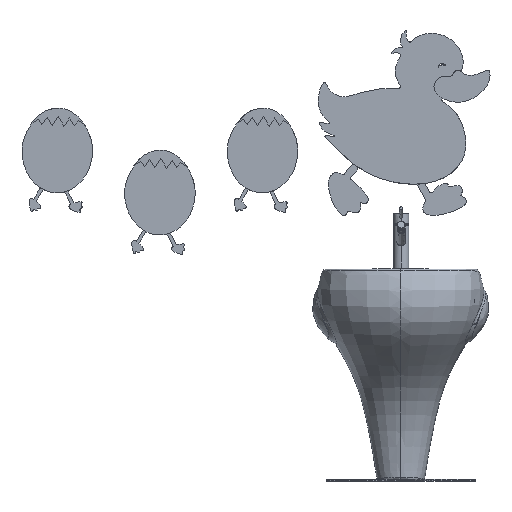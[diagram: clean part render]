
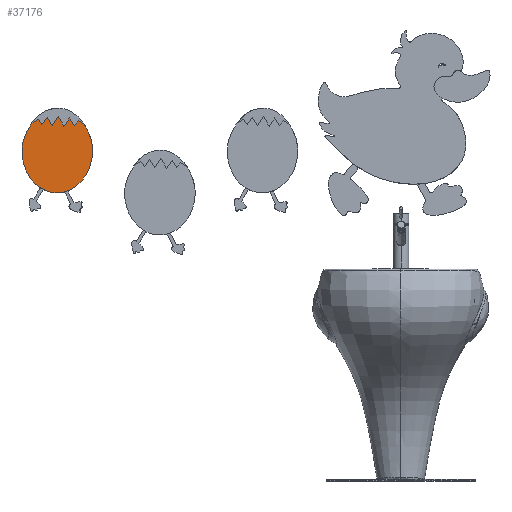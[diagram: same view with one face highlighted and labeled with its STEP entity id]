
A CAD part, top view. The second image highlights one B-rep face of the part: STEP entity #37176.
In plain terms, the highlighted planar face has unit normal (0, 0, 1).
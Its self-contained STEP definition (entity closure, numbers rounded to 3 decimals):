
#1823 = ORIENTED_EDGE ( 'NONE', *, *, #75534, .T. ) ;
#3235 = CARTESIAN_POINT ( 'NONE',  ( -1010.565, 530.499, -519.464 ) ) ;
#4494 = LINE ( 'NONE', #50676, #267280 ) ;
#4965 = EDGE_CURVE ( 'NONE', #191285, #153739, #47562, .T. ) ;
#6187 = CARTESIAN_POINT ( 'NONE',  ( -1117.728, 433.204, -519.464 ) ) ;
#8306 = ORIENTED_EDGE ( 'NONE', *, *, #203443, .T. ) ;
#17047 = B_SPLINE_CURVE_WITH_KNOTS ( 'NONE', 3,
 ( #181402, #283154, #111337, #38159 ),
 .UNSPECIFIED., .F., .F.,
 ( 4, 4 ),
 ( 0.501, 0.518 ),
 .UNSPECIFIED. ) ;
#18813 = VECTOR ( 'NONE', #23389, 1000. ) ;
#20157 = AXIS2_PLACEMENT_3D ( 'NONE', #103446, #81152, #275277 ) ;
#20283 =( BOUNDED_CURVE ( )  B_SPLINE_CURVE ( 3, ( #70950, #193464, #94819, #218894 ),
 .UNSPECIFIED., .F., .T. ) 
 B_SPLINE_CURVE_WITH_KNOTS ( ( 4, 4 ),
 ( 4.712, 6.283 ),
 .UNSPECIFIED. ) 
 CURVE ( )  GEOMETRIC_REPRESENTATION_ITEM ( )  RATIONAL_B_SPLINE_CURVE ( ( 1., 0.805, 0.805, 1. ) ) 
 REPRESENTATION_ITEM ( '' )  );
#21710 = B_SPLINE_CURVE_WITH_KNOTS ( 'NONE', 3,
 ( #293208, #286957, #194592, #267758 ),
 .UNSPECIFIED., .F., .F.,
 ( 4, 4 ),
 ( 0.518, 1. ),
 .UNSPECIFIED. ) ;
#23389 = DIRECTION ( 'NONE',  ( -0.841, 0.542, 0. ) ) ;
#23493 = CARTESIAN_POINT ( 'NONE',  ( -963.814, 503.752, -519.464 ) ) ;
#24164 = CARTESIAN_POINT ( 'NONE',  ( -1017.395, 305.107, -519.464 ) ) ;
#24494 = LINE ( 'NONE', #75353, #188512 ) ;
#25048 = LINE ( 'NONE', #101324, #233232 ) ;
#26599 = ORIENTED_EDGE ( 'NONE', *, *, #140257, .T. ) ;
#26814 = DIRECTION ( 'NONE',  ( -0.56, -0.828, 0. ) ) ;
#27660 = ORIENTED_EDGE ( 'NONE', *, *, #125653, .T. ) ;
#28405 = VERTEX_POINT ( 'NONE', #23493 ) ;
#28847 = ORIENTED_EDGE ( 'NONE', *, *, #163218, .T. ) ;
#31568 = DIRECTION ( 'NONE',  ( -0.509, 0.861, 0. ) ) ;
#36030 = CARTESIAN_POINT ( 'NONE',  ( -909.49, 426.894, -519.464 ) ) ;
#36560 = CARTESIAN_POINT ( 'NONE',  ( -1066.226, 523.698, -519.464 ) ) ;
#37176 = ADVANCED_FACE ( 'NONE', ( #128898 ), #130470, .T. ) ;
#38159 = CARTESIAN_POINT ( 'NONE',  ( -1090.14, 508.72, -519.464 ) ) ;
#39592 = CARTESIAN_POINT ( 'NONE',  ( -909.49, 426.894, -519.464 ) ) ;
#45271 = VERTEX_POINT ( 'NONE', #148202 ) ;
#47562 = B_SPLINE_CURVE_WITH_KNOTS ( 'NONE', 3,
 ( #39592, #283025, #138231, #256002 ),
 .UNSPECIFIED., .F., .F.,
 ( 4, 4 ),
 ( 0., 0.499 ),
 .UNSPECIFIED. ) ;
#50374 = CARTESIAN_POINT ( 'NONE',  ( -955.418, 520.34, -519.464 ) ) ;
#50676 = CARTESIAN_POINT ( 'NONE',  ( -1033.462, 443.476, -519.464 ) ) ;
#54283 = CARTESIAN_POINT ( 'NONE',  ( -1057.471, 458.708, -519.464 ) ) ;
#62008 = VERTEX_POINT ( 'NONE', #74587 ) ;
#67227 = ORIENTED_EDGE ( 'NONE', *, *, #4965, .T. ) ;
#70950 = CARTESIAN_POINT ( 'NONE',  ( -1117.728, 433.204, -519.464 ) ) ;
#71120 = LINE ( 'NONE', #50374, #18813 ) ;
#74587 = CARTESIAN_POINT ( 'NONE',  ( -952.126, 518.219, -519.464 ) ) ;
#75353 = CARTESIAN_POINT ( 'NONE',  ( -1079.82, 477.16, -519.464 ) ) ;
#75534 = EDGE_CURVE ( 'NONE', #305215, #219714, #20283, .T. ) ;
#81152 = DIRECTION ( 'NONE',  ( 0., 0., 1. ) ) ;
#81638 = CARTESIAN_POINT ( 'NONE',  ( -956.403, 303.259, -519.464 ) ) ;
#87003 = DIRECTION ( 'NONE',  ( -0.529, 0.848, 0. ) ) ;
#89405 = LINE ( 'NONE', #186487, #302960 ) ;
#91877 = EDGE_CURVE ( 'NONE', #125898, #305215, #21710, .T. ) ;
#93023 = VERTEX_POINT ( 'NONE', #170972 ) ;
#94090 = VECTOR ( 'NONE', #31568, 1000. ) ;
#94819 = CARTESIAN_POINT ( 'NONE',  ( -1078.386, 306.955, -519.464 ) ) ;
#96561 = EDGE_CURVE ( 'NONE', #62008, #28405, #25048, .T. ) ;
#100031 = LINE ( 'NONE', #147799, #94090 ) ;
#101324 = CARTESIAN_POINT ( 'NONE',  ( -1019.509, 434.816, -519.464 ) ) ;
#101832 = CARTESIAN_POINT ( 'NONE',  ( -1069.64, 521.779, -519.464 ) ) ;
#103159 = DIRECTION ( 'NONE',  ( -0.495, 0.869, 0. ) ) ;
#103446 = CARTESIAN_POINT ( 'NONE',  ( -1013.609, 430.049, -519.464 ) ) ;
#106473 = ORIENTED_EDGE ( 'NONE', *, *, #96561, .T. ) ;
#108314 = DIRECTION ( 'NONE',  ( -0.547, -0.837, 0. ) ) ;
#108551 = VERTEX_POINT ( 'NONE', #3235 ) ;
#108882 = VERTEX_POINT ( 'NONE', #101832 ) ;
#111337 = CARTESIAN_POINT ( 'NONE',  ( -1089.532, 509.587, -519.464 ) ) ;
#112550 = EDGE_CURVE ( 'NONE', #153739, #62008, #71120, .T. ) ;
#115149 = CARTESIAN_POINT ( 'NONE',  ( -1043.671, 527.965, -519.464 ) ) ;
#116483 =( BOUNDED_CURVE ( )  B_SPLINE_CURVE ( 3, ( #153263, #81638, #127814, #255045 ),
 .UNSPECIFIED., .F., .T. ) 
 B_SPLINE_CURVE_WITH_KNOTS ( ( 4, 4 ),
 ( 0., 1.571 ),
 .UNSPECIFIED. ) 
 CURVE ( )  GEOMETRIC_REPRESENTATION_ITEM ( )  RATIONAL_B_SPLINE_CURVE ( ( 1., 0.805, 0.805, 1. ) ) 
 REPRESENTATION_ITEM ( '' )  );
#122640 = CARTESIAN_POINT ( 'NONE',  ( -1088.287, 511.302, -519.464 ) ) ;
#123229 = VERTEX_POINT ( 'NONE', #297919 ) ;
#123724 = ORIENTED_EDGE ( 'NONE', *, *, #91877, .T. ) ;
#124402 = VERTEX_POINT ( 'NONE', #122640 ) ;
#125653 = EDGE_CURVE ( 'NONE', #108882, #124402, #157489, .T. ) ;
#125898 = VERTEX_POINT ( 'NONE', #249028 ) ;
#127814 = CARTESIAN_POINT ( 'NONE',  ( -911.708, 353.705, -519.464 ) ) ;
#128898 = FACE_OUTER_BOUND ( 'NONE', #216331, .T. ) ;
#130470 = PLANE ( 'NONE',  #20157 ) ;
#133761 = VERTEX_POINT ( 'NONE', #225969 ) ;
#138231 = CARTESIAN_POINT ( 'NONE',  ( -917.275, 480.449, -519.464 ) ) ;
#140257 = EDGE_CURVE ( 'NONE', #108551, #123229, #154501, .T. ) ;
#147799 = CARTESIAN_POINT ( 'NONE',  ( -992.979, 442.25, -519.464 ) ) ;
#148202 = CARTESIAN_POINT ( 'NONE',  ( -994.118, 501.65, -519.464 ) ) ;
#153263 = CARTESIAN_POINT ( 'NONE',  ( -1017.395, 305.107, -519.464 ) ) ;
#153518 = EDGE_CURVE ( 'NONE', #133761, #45271, #4494, .T. ) ;
#153739 = VERTEX_POINT ( 'NONE', #261634 ) ;
#154501 = LINE ( 'NONE', #54283, #211443 ) ;
#157489 = LINE ( 'NONE', #36560, #266621 ) ;
#162613 = DIRECTION ( 'NONE',  ( -0.58, 0.814, 0. ) ) ;
#163093 = ORIENTED_EDGE ( 'NONE', *, *, #212113, .T. ) ;
#163218 = EDGE_CURVE ( 'NONE', #93023, #108882, #89405, .T. ) ;
#170972 = CARTESIAN_POINT ( 'NONE',  ( -1058.85, 506.632, -519.464 ) ) ;
#172822 = VECTOR ( 'NONE', #103159, 1000. ) ;
#174793 = CARTESIAN_POINT ( 'NONE',  ( -968.092, 456., -519.464 ) ) ;
#180948 = CARTESIAN_POINT ( 'NONE',  ( -944.667, 473.064, -519.464 ) ) ;
#181402 = CARTESIAN_POINT ( 'NONE',  ( -1088.287, 511.302, -519.464 ) ) ;
#181699 = ORIENTED_EDGE ( 'NONE', *, *, #181920, .T. ) ;
#181920 = EDGE_CURVE ( 'NONE', #45271, #108551, #197096, .T. ) ;
#186487 = CARTESIAN_POINT ( 'NONE',  ( -1007.431, 434.45, -519.464 ) ) ;
#186598 = ORIENTED_EDGE ( 'NONE', *, *, #153518, .T. ) ;
#188512 = VECTOR ( 'NONE', #263197, 1000. ) ;
#191285 = VERTEX_POINT ( 'NONE', #36030 ) ;
#192244 = VECTOR ( 'NONE', #87003, 1000. ) ;
#193464 = CARTESIAN_POINT ( 'NONE',  ( -1119.945, 360.015, -519.464 ) ) ;
#194592 = CARTESIAN_POINT ( 'NONE',  ( -1117.08, 454.591, -519.464 ) ) ;
#195282 = DIRECTION ( 'NONE',  ( -0.628, -0.778, 0. ) ) ;
#197096 = LINE ( 'NONE', #174793, #172822 ) ;
#203443 = EDGE_CURVE ( 'NONE', #293951, #93023, #24494, .T. ) ;
#211443 = VECTOR ( 'NONE', #108314, 1000. ) ;
#212113 = EDGE_CURVE ( 'NONE', #124402, #125898, #17047, .T. ) ;
#216331 = EDGE_LOOP ( 'NONE', ( #28847, #27660, #163093, #123724, #1823, #237079, #67227, #283886, #106473, #235391, #186598, #181699, #26599, #229194, #8306 ) ) ;
#218894 = CARTESIAN_POINT ( 'NONE',  ( -1017.395, 305.107, -519.464 ) ) ;
#219714 = VERTEX_POINT ( 'NONE', #24164 ) ;
#225969 = CARTESIAN_POINT ( 'NONE',  ( -977.673, 525.965, -519.464 ) ) ;
#229194 = ORIENTED_EDGE ( 'NONE', *, *, #314482, .T. ) ;
#233232 = VECTOR ( 'NONE', #195282, 1000. ) ;
#235391 = ORIENTED_EDGE ( 'NONE', *, *, #285208, .T. ) ;
#237079 = ORIENTED_EDGE ( 'NONE', *, *, #283004, .T. ) ;
#249028 = CARTESIAN_POINT ( 'NONE',  ( -1090.14, 508.72, -519.464 ) ) ;
#255045 = CARTESIAN_POINT ( 'NONE',  ( -909.49, 426.894, -519.464 ) ) ;
#256002 = CARTESIAN_POINT ( 'NONE',  ( -934.148, 506.632, -519.464 ) ) ;
#257649 = DIRECTION ( 'NONE',  ( -0.872, -0.49, 0. ) ) ;
#261634 = CARTESIAN_POINT ( 'NONE',  ( -934.148, 506.632, -519.464 ) ) ;
#263197 = DIRECTION ( 'NONE',  ( -0.58, -0.815, 0. ) ) ;
#266621 = VECTOR ( 'NONE', #257649, 1000. ) ;
#267280 = VECTOR ( 'NONE', #26814, 1000. ) ;
#267758 = CARTESIAN_POINT ( 'NONE',  ( -1117.728, 433.204, -519.464 ) ) ;
#275277 = DIRECTION ( 'NONE',  ( 1., 0., 0. ) ) ;
#283004 = EDGE_CURVE ( 'NONE', #219714, #191285, #116483, .T. ) ;
#283025 = CARTESIAN_POINT ( 'NONE',  ( -908.819, 449.034, -519.464 ) ) ;
#283154 = CARTESIAN_POINT ( 'NONE',  ( -1088.914, 510.448, -519.464 ) ) ;
#283886 = ORIENTED_EDGE ( 'NONE', *, *, #112550, .T. ) ;
#285208 = EDGE_CURVE ( 'NONE', #28405, #133761, #301861, .T. ) ;
#286957 = CARTESIAN_POINT ( 'NONE',  ( -1107.407, 484.101, -519.464 ) ) ;
#293208 = CARTESIAN_POINT ( 'NONE',  ( -1090.14, 508.72, -519.464 ) ) ;
#293951 = VERTEX_POINT ( 'NONE', #115149 ) ;
#297919 = CARTESIAN_POINT ( 'NONE',  ( -1028.729, 502.699, -519.464 ) ) ;
#301861 = LINE ( 'NONE', #180948, #192244 ) ;
#302960 = VECTOR ( 'NONE', #162613, 1000. ) ;
#305215 = VERTEX_POINT ( 'NONE', #6187 ) ;
#314482 = EDGE_CURVE ( 'NONE', #123229, #293951, #100031, .T. ) ;
